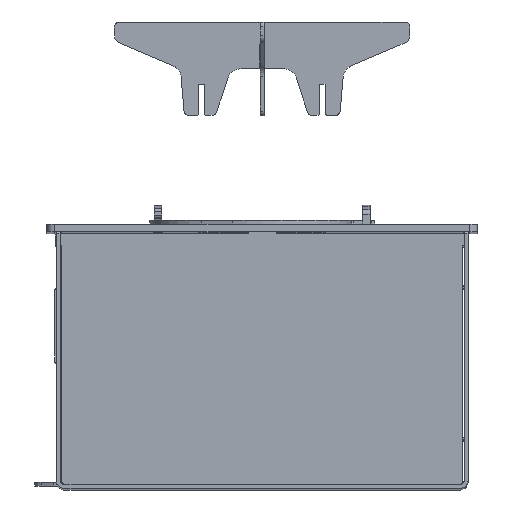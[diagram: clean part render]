
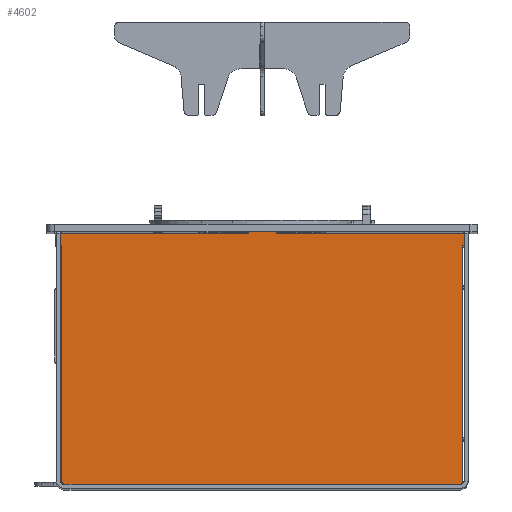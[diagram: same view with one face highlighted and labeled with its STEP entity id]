
A CAD part, top view. The second image highlights one B-rep face of the part: STEP entity #4602.
In plain terms, the highlighted planar face has unit normal (0, 0, 1).
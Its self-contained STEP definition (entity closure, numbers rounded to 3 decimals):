
#3975=CARTESIAN_POINT('',(52.,1.,1.25));
#3976=DIRECTION('',(0.,0.,1.));
#3977=DIRECTION('',(-1.,0.,0.));
#3978=AXIS2_PLACEMENT_3D('',#3975,#3976,#3977);
#3980=DIRECTION('',(0.,-1.,0.));
#3981=VECTOR('',#3980,1.5);
#3982=CARTESIAN_POINT('',(51.,2.5,1.25));
#3983=LINE('',#3982,#3981);
#3984=DIRECTION('',(1.,0.,0.));
#3985=VECTOR('',#3984,102.);
#3986=CARTESIAN_POINT('',(-51.,2.5,1.25));
#3987=LINE('',#3986,#3985);
#3988=DIRECTION('',(0.,1.,0.));
#3989=VECTOR('',#3988,1.5);
#3990=CARTESIAN_POINT('',(-51.,1.,1.25));
#3991=LINE('',#3990,#3989);
#3992=CARTESIAN_POINT('',(-52.,1.,1.25));
#3993=DIRECTION('',(0.,0.,1.));
#3994=DIRECTION('',(0.,-1.,0.));
#3995=AXIS2_PLACEMENT_3D('',#3992,#3993,#3994);
#3997=DIRECTION('',(1.,0.,0.));
#3998=VECTOR('',#3997,16.);
#3999=CARTESIAN_POINT('',(-68.,0.,1.25));
#4000=LINE('',#3999,#3998);
#4001=CARTESIAN_POINT('',(-68.,1.,1.25));
#4002=DIRECTION('',(0.,0.,1.));
#4003=DIRECTION('',(-1.,0.,0.));
#4004=AXIS2_PLACEMENT_3D('',#4001,#4002,#4003);
#4006=DIRECTION('',(0.,-1.,0.));
#4007=VECTOR('',#4006,1.5);
#4008=CARTESIAN_POINT('',(-69.,2.5,1.25));
#4009=LINE('',#4008,#4007);
#4010=DIRECTION('',(1.,0.,0.));
#4011=VECTOR('',#4010,58.);
#4012=CARTESIAN_POINT('',(-127.,2.5,1.25));
#4013=LINE('',#4012,#4011);
#4014=CARTESIAN_POINT('',(-127.,4.5,1.25));
#4015=DIRECTION('',(0.,0.,1.));
#4016=DIRECTION('',(-1.,0.,0.));
#4017=AXIS2_PLACEMENT_3D('',#4014,#4015,#4016);
#4019=DIRECTION('',(0.,-1.,0.));
#4020=VECTOR('',#4019,151.5);
#4021=CARTESIAN_POINT('',(-129.,156.,1.25));
#4022=LINE('',#4021,#4020);
#4023=DIRECTION('',(1.,0.,0.));
#4024=VECTOR('',#4023,3.);
#4025=CARTESIAN_POINT('',(-132.,156.,1.25));
#4026=LINE('',#4025,#4024);
#4027=CARTESIAN_POINT('',(-132.,157.,1.25));
#4028=DIRECTION('',(0.,0.,1.));
#4029=DIRECTION('',(-1.,0.,0.));
#4030=AXIS2_PLACEMENT_3D('',#4027,#4028,#4029);
#4032=DIRECTION('',(0.,-1.,0.));
#4033=VECTOR('',#4032,6.);
#4034=CARTESIAN_POINT('',(-133.,163.,1.25));
#4035=LINE('',#4034,#4033);
#4036=CARTESIAN_POINT('',(-132.,163.,1.25));
#4037=DIRECTION('',(0.,0.,1.));
#4038=DIRECTION('',(0.,1.,0.));
#4039=AXIS2_PLACEMENT_3D('',#4036,#4037,#4038);
#4041=DIRECTION('',(0.,-1.,0.));
#4042=VECTOR('',#4041,1.5);
#4043=CARTESIAN_POINT('',(-9.,165.5,1.25));
#4044=LINE('',#4043,#4042);
#4045=CARTESIAN_POINT('',(-8.,165.5,1.25));
#4046=DIRECTION('',(0.,0.,1.));
#4047=DIRECTION('',(0.,1.,0.));
#4048=AXIS2_PLACEMENT_3D('',#4045,#4046,#4047);
#4050=DIRECTION('',(-1.,0.,0.));
#4051=VECTOR('',#4050,16.);
#4052=CARTESIAN_POINT('',(8.,166.5,1.25));
#4053=LINE('',#4052,#4051);
#4054=CARTESIAN_POINT('',(8.,165.5,1.25));
#4055=DIRECTION('',(0.,0.,1.));
#4056=DIRECTION('',(1.,0.,0.));
#4057=AXIS2_PLACEMENT_3D('',#4054,#4055,#4056);
#4059=DIRECTION('',(0.,1.,0.));
#4060=VECTOR('',#4059,1.5);
#4061=CARTESIAN_POINT('',(9.,164.,1.25));
#4062=LINE('',#4061,#4060);
#4063=CARTESIAN_POINT('',(132.,163.,1.25));
#4064=DIRECTION('',(0.,0.,1.));
#4065=DIRECTION('',(1.,0.,0.));
#4066=AXIS2_PLACEMENT_3D('',#4063,#4064,#4065);
#4068=DIRECTION('',(0.,1.,0.));
#4069=VECTOR('',#4068,6.);
#4070=CARTESIAN_POINT('',(133.,157.,1.25));
#4071=LINE('',#4070,#4069);
#4072=CARTESIAN_POINT('',(132.,157.,1.25));
#4073=DIRECTION('',(0.,0.,1.));
#4074=DIRECTION('',(0.,-1.,0.));
#4075=AXIS2_PLACEMENT_3D('',#4072,#4073,#4074);
#4077=DIRECTION('',(1.,0.,0.));
#4078=VECTOR('',#4077,3.);
#4079=CARTESIAN_POINT('',(129.,156.,1.25));
#4080=LINE('',#4079,#4078);
#4081=DIRECTION('',(0.,1.,0.));
#4082=VECTOR('',#4081,151.5);
#4083=CARTESIAN_POINT('',(129.,4.5,1.25));
#4084=LINE('',#4083,#4082);
#4085=CARTESIAN_POINT('',(127.,4.5,1.25));
#4086=DIRECTION('',(0.,0.,1.));
#4087=DIRECTION('',(0.,-1.,0.));
#4088=AXIS2_PLACEMENT_3D('',#4085,#4086,#4087);
#4090=DIRECTION('',(1.,0.,0.));
#4091=VECTOR('',#4090,58.);
#4092=CARTESIAN_POINT('',(69.,2.5,1.25));
#4093=LINE('',#4092,#4091);
#4094=DIRECTION('',(0.,1.,0.));
#4095=VECTOR('',#4094,1.5);
#4096=CARTESIAN_POINT('',(69.,1.,1.25));
#4097=LINE('',#4096,#4095);
#4098=CARTESIAN_POINT('',(68.,1.,1.25));
#4099=DIRECTION('',(0.,0.,1.));
#4100=DIRECTION('',(0.,-1.,0.));
#4101=AXIS2_PLACEMENT_3D('',#4098,#4099,#4100);
#4103=DIRECTION('',(1.,0.,0.));
#4104=VECTOR('',#4103,16.);
#4105=CARTESIAN_POINT('',(52.,0.,1.25));
#4106=LINE('',#4105,#4104);
#4131=DIRECTION('',(-1.,0.,0.));
#4132=VECTOR('',#4131,123.);
#4133=CARTESIAN_POINT('',(132.,164.,1.25));
#4134=LINE('',#4133,#4132);
#4147=DIRECTION('',(-1.,0.,0.));
#4148=VECTOR('',#4147,123.);
#4149=CARTESIAN_POINT('',(-9.,164.,1.25));
#4150=LINE('',#4149,#4148);
#4200=CARTESIAN_POINT('',(-129.,156.,1.25));
#4202=VERTEX_POINT('',#4200);
#4204=CARTESIAN_POINT('',(-69.,2.5,1.25));
#4206=VERTEX_POINT('',#4204);
#4208=CARTESIAN_POINT('',(-51.,2.5,1.25));
#4210=VERTEX_POINT('',#4208);
#4212=CARTESIAN_POINT('',(51.,2.5,1.25));
#4214=VERTEX_POINT('',#4212);
#4216=CARTESIAN_POINT('',(69.,2.5,1.25));
#4218=VERTEX_POINT('',#4216);
#4220=CARTESIAN_POINT('',(129.,156.,1.25));
#4222=VERTEX_POINT('',#4220);
#4227=CARTESIAN_POINT('',(-129.,4.5,1.25));
#4228=VERTEX_POINT('',#4227);
#4229=CARTESIAN_POINT('',(-127.,2.5,1.25));
#4230=VERTEX_POINT('',#4229);
#4235=CARTESIAN_POINT('',(127.,2.5,1.25));
#4236=VERTEX_POINT('',#4235);
#4237=CARTESIAN_POINT('',(129.,4.5,1.25));
#4238=VERTEX_POINT('',#4237);
#4240=CARTESIAN_POINT('',(9.,164.,1.25));
#4242=VERTEX_POINT('',#4240);
#4244=CARTESIAN_POINT('',(-9.,164.,1.25));
#4246=VERTEX_POINT('',#4244);
#4251=CARTESIAN_POINT('',(51.,1.,1.25));
#4252=VERTEX_POINT('',#4251);
#4253=CARTESIAN_POINT('',(52.,0.,1.25));
#4254=VERTEX_POINT('',#4253);
#4259=CARTESIAN_POINT('',(68.,0.,1.25));
#4260=VERTEX_POINT('',#4259);
#4261=CARTESIAN_POINT('',(69.,1.,1.25));
#4262=VERTEX_POINT('',#4261);
#4267=CARTESIAN_POINT('',(-52.,0.,1.25));
#4268=VERTEX_POINT('',#4267);
#4269=CARTESIAN_POINT('',(-51.,1.,1.25));
#4270=VERTEX_POINT('',#4269);
#4275=CARTESIAN_POINT('',(-69.,1.,1.25));
#4276=VERTEX_POINT('',#4275);
#4277=CARTESIAN_POINT('',(-68.,0.,1.25));
#4278=VERTEX_POINT('',#4277);
#4283=CARTESIAN_POINT('',(132.,156.,1.25));
#4284=VERTEX_POINT('',#4283);
#4285=CARTESIAN_POINT('',(133.,157.,1.25));
#4286=VERTEX_POINT('',#4285);
#4291=CARTESIAN_POINT('',(133.,163.,1.25));
#4292=VERTEX_POINT('',#4291);
#4293=CARTESIAN_POINT('',(132.,164.,1.25));
#4294=VERTEX_POINT('',#4293);
#4299=CARTESIAN_POINT('',(-133.,157.,1.25));
#4300=VERTEX_POINT('',#4299);
#4301=CARTESIAN_POINT('',(-132.,156.,1.25));
#4302=VERTEX_POINT('',#4301);
#4307=CARTESIAN_POINT('',(-132.,164.,1.25));
#4308=VERTEX_POINT('',#4307);
#4309=CARTESIAN_POINT('',(-133.,163.,1.25));
#4310=VERTEX_POINT('',#4309);
#4315=CARTESIAN_POINT('',(9.,165.5,1.25));
#4316=VERTEX_POINT('',#4315);
#4317=CARTESIAN_POINT('',(8.,166.5,1.25));
#4318=VERTEX_POINT('',#4317);
#4323=CARTESIAN_POINT('',(-8.,166.5,1.25));
#4324=VERTEX_POINT('',#4323);
#4325=CARTESIAN_POINT('',(-9.,165.5,1.25));
#4326=VERTEX_POINT('',#4325);
#4541=CARTESIAN_POINT('',(0.,0.,1.25));
#4542=DIRECTION('',(0.,0.,1.));
#4543=DIRECTION('',(1.,0.,0.));
#4544=AXIS2_PLACEMENT_3D('',#4541,#4542,#4543);
#4545=PLANE('',#4544);
#4546=ORIENTED_EDGE('',*,*,#4407,.F.);
#4547=ORIENTED_EDGE('',*,*,#4423,.F.);
#4548=ORIENTED_EDGE('',*,*,#4435,.F.);
#4549=ORIENTED_EDGE('',*,*,#4479,.F.);
#4550=ORIENTED_EDGE('',*,*,#4494,.F.);
#4551=ORIENTED_EDGE('',*,*,#4509,.F.);
#4552=ORIENTED_EDGE('',*,*,#4522,.F.);
#4553=ORIENTED_EDGE('',*,*,#4536,.F.);
#4554=ORIENTED_EDGE('',*,*,#4449,.F.);
#4556=ORIENTED_EDGE('',*,*,#4555,.F.);
#4558=ORIENTED_EDGE('',*,*,#4557,.F.);
#4560=ORIENTED_EDGE('',*,*,#4559,.F.);
#4562=ORIENTED_EDGE('',*,*,#4561,.F.);
#4564=ORIENTED_EDGE('',*,*,#4563,.F.);
#4566=ORIENTED_EDGE('',*,*,#4565,.F.);
#4568=ORIENTED_EDGE('',*,*,#4567,.F.);
#4570=ORIENTED_EDGE('',*,*,#4569,.F.);
#4572=ORIENTED_EDGE('',*,*,#4571,.F.);
#4574=ORIENTED_EDGE('',*,*,#4573,.F.);
#4576=ORIENTED_EDGE('',*,*,#4575,.F.);
#4578=ORIENTED_EDGE('',*,*,#4577,.F.);
#4580=ORIENTED_EDGE('',*,*,#4579,.F.);
#4582=ORIENTED_EDGE('',*,*,#4581,.F.);
#4584=ORIENTED_EDGE('',*,*,#4583,.F.);
#4586=ORIENTED_EDGE('',*,*,#4585,.F.);
#4588=ORIENTED_EDGE('',*,*,#4587,.F.);
#4590=ORIENTED_EDGE('',*,*,#4589,.F.);
#4592=ORIENTED_EDGE('',*,*,#4591,.F.);
#4593=ORIENTED_EDGE('',*,*,#4467,.F.);
#4595=ORIENTED_EDGE('',*,*,#4594,.F.);
#4597=ORIENTED_EDGE('',*,*,#4596,.F.);
#4599=ORIENTED_EDGE('',*,*,#4598,.F.);
#4600=EDGE_LOOP('',(#4546,#4547,#4548,#4549,#4550,#4551,#4552,#4553,#4554,#4556,
#4558,#4560,#4562,#4564,#4566,#4568,#4570,#4572,#4574,#4576,#4578,#4580,#4582,
#4584,#4586,#4588,#4590,#4592,#4593,#4595,#4597,#4599));
#4601=FACE_OUTER_BOUND('',#4600,.F.);
#3979=CIRCLE('',#3978,1.);
#3996=CIRCLE('',#3995,1.);
#4005=CIRCLE('',#4004,1.);
#4018=CIRCLE('',#4017,2.);
#4031=CIRCLE('',#4030,1.);
#4040=CIRCLE('',#4039,1.);
#4049=CIRCLE('',#4048,1.);
#4058=CIRCLE('',#4057,1.);
#4067=CIRCLE('',#4066,1.);
#4076=CIRCLE('',#4075,1.);
#4089=CIRCLE('',#4088,2.);
#4102=CIRCLE('',#4101,1.);
#4407=EDGE_CURVE('',#4252,#4254,#3979,.T.);
#4423=EDGE_CURVE('',#4214,#4252,#3983,.T.);
#4435=EDGE_CURVE('',#4210,#4214,#3987,.T.);
#4449=EDGE_CURVE('',#4230,#4206,#4013,.T.);
#4467=EDGE_CURVE('',#4218,#4236,#4093,.T.);
#4479=EDGE_CURVE('',#4270,#4210,#3991,.T.);
#4494=EDGE_CURVE('',#4268,#4270,#3996,.T.);
#4509=EDGE_CURVE('',#4278,#4268,#4000,.T.);
#4522=EDGE_CURVE('',#4276,#4278,#4005,.T.);
#4536=EDGE_CURVE('',#4206,#4276,#4009,.T.);
#4555=EDGE_CURVE('',#4228,#4230,#4018,.T.);
#4557=EDGE_CURVE('',#4202,#4228,#4022,.T.);
#4559=EDGE_CURVE('',#4302,#4202,#4026,.T.);
#4561=EDGE_CURVE('',#4300,#4302,#4031,.T.);
#4563=EDGE_CURVE('',#4310,#4300,#4035,.T.);
#4565=EDGE_CURVE('',#4308,#4310,#4040,.T.);
#4567=EDGE_CURVE('',#4246,#4308,#4150,.T.);
#4569=EDGE_CURVE('',#4326,#4246,#4044,.T.);
#4571=EDGE_CURVE('',#4324,#4326,#4049,.T.);
#4573=EDGE_CURVE('',#4318,#4324,#4053,.T.);
#4575=EDGE_CURVE('',#4316,#4318,#4058,.T.);
#4577=EDGE_CURVE('',#4242,#4316,#4062,.T.);
#4579=EDGE_CURVE('',#4294,#4242,#4134,.T.);
#4581=EDGE_CURVE('',#4292,#4294,#4067,.T.);
#4583=EDGE_CURVE('',#4286,#4292,#4071,.T.);
#4585=EDGE_CURVE('',#4284,#4286,#4076,.T.);
#4587=EDGE_CURVE('',#4222,#4284,#4080,.T.);
#4589=EDGE_CURVE('',#4238,#4222,#4084,.T.);
#4591=EDGE_CURVE('',#4236,#4238,#4089,.T.);
#4594=EDGE_CURVE('',#4262,#4218,#4097,.T.);
#4596=EDGE_CURVE('',#4260,#4262,#4102,.T.);
#4598=EDGE_CURVE('',#4254,#4260,#4106,.T.);
#4602=ADVANCED_FACE('',(#4601),#4545,.T.);
